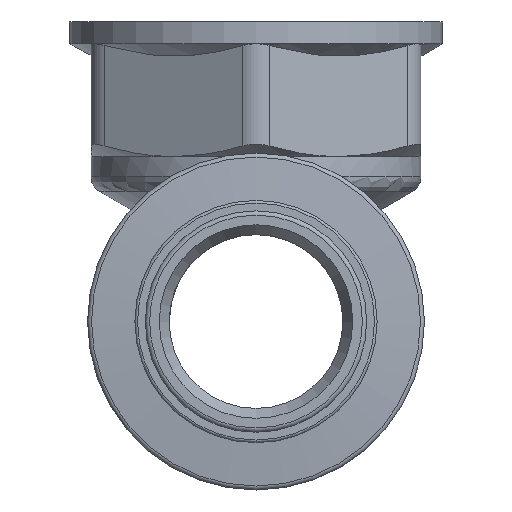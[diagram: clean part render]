
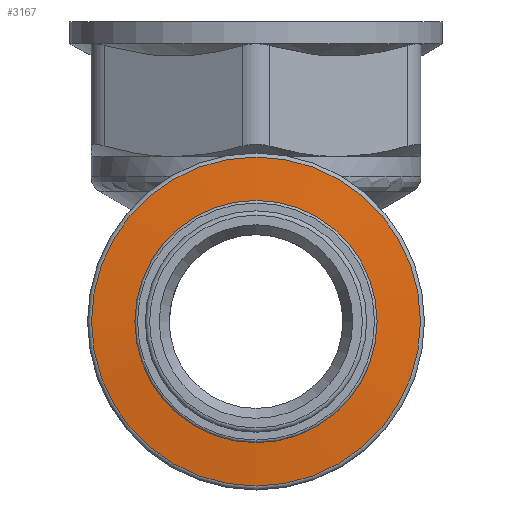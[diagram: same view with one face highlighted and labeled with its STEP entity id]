
A CAD part, front view. The second image highlights one B-rep face of the part: STEP entity #3167.
In plain terms, the highlighted conical face has half-angle 85 degrees and reference radius 16.231 mm.
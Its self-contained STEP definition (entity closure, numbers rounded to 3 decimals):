
#3167=ADVANCED_FACE('',(#6096,#6098),#6100,.T.);
#6096=FACE_OUTER_BOUND('',#6097,.T.);
#6097=EDGE_LOOP('',(#8715));
#6098=FACE_OUTER_BOUND('',#6099,.T.);
#6099=EDGE_LOOP('',(#8716));
#6100=CONICAL_SURFACE('',#6101,16.231,1.484);
#6101=AXIS2_PLACEMENT_3D('',#6102,#6103,#6104);
#6102=CARTESIAN_POINT('',(0.,-33.277,0.));
#6103=DIRECTION('',(0.,1.,0.));
#6104=DIRECTION('',(-1.,0.,0.));
#8715=ORIENTED_EDGE('',*,*,#9706,.T.);
#8716=ORIENTED_EDGE('',*,*,#9702,.T.);
#9702=EDGE_CURVE('',#11264,#11264,#11265,.F.);
#9706=EDGE_CURVE('',#11272,#11272,#11273,.T.);
#11264=VERTEX_POINT('',#16937);
#11265=CIRCLE('',#16938,18.944);
#11272=VERTEX_POINT('',#16957);
#11273=CIRCLE('',#16958,13.519);
#16937=CARTESIAN_POINT('',(-18.944,-33.04,0.));
#16938=AXIS2_PLACEMENT_3D('',#16939,#16940,#16941);
#16939=CARTESIAN_POINT('',(0.,-33.04,0.));
#16940=DIRECTION('',(0.,1.,0.));
#16941=DIRECTION('',(-1.,0.,0.));
#16957=CARTESIAN_POINT('',(-13.519,-33.514,0.));
#16958=AXIS2_PLACEMENT_3D('',#16959,#16960,#16961);
#16959=CARTESIAN_POINT('',(0.,-33.514,0.));
#16960=DIRECTION('',(0.,1.,0.));
#16961=DIRECTION('',(-1.,0.,0.));
